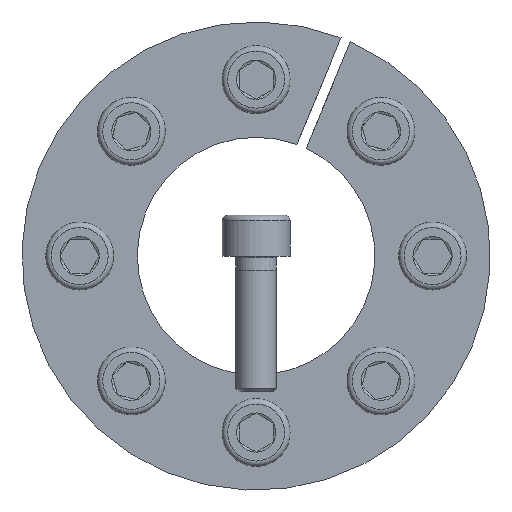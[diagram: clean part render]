
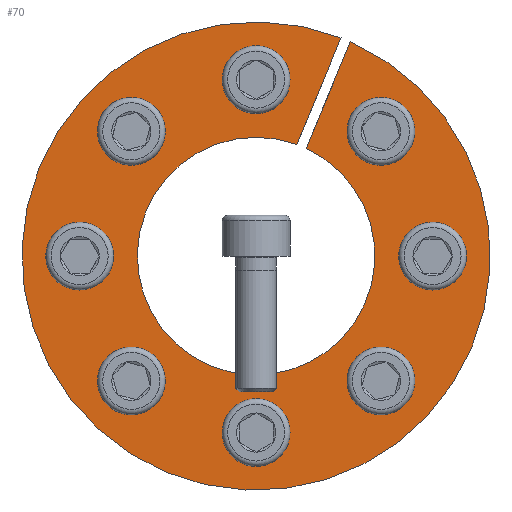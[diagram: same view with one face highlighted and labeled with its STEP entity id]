
A CAD part, front view. The second image highlights one B-rep face of the part: STEP entity #70.
In plain terms, the highlighted planar face has unit normal (0, -1, 0).
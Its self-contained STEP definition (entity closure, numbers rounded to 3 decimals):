
#70 = ADVANCED_FACE( '', ( #157, #158, #159, #160, #161, #162, #163, #164, #165 ), #166, .F. );
#157 = FACE_BOUND( '', #319, .T. );
#158 = FACE_BOUND( '', #320, .T. );
#159 = FACE_BOUND( '', #321, .T. );
#160 = FACE_BOUND( '', #322, .T. );
#161 = FACE_BOUND( '', #323, .T. );
#162 = FACE_BOUND( '', #324, .T. );
#163 = FACE_BOUND( '', #325, .T. );
#164 = FACE_BOUND( '', #326, .T. );
#165 = FACE_OUTER_BOUND( '', #327, .T. );
#166 = PLANE( '', #328 );
#319 = EDGE_LOOP( '', ( #504 ) );
#320 = EDGE_LOOP( '', ( #505 ) );
#321 = EDGE_LOOP( '', ( #506 ) );
#322 = EDGE_LOOP( '', ( #507 ) );
#323 = EDGE_LOOP( '', ( #508 ) );
#324 = EDGE_LOOP( '', ( #509 ) );
#325 = EDGE_LOOP( '', ( #510 ) );
#326 = EDGE_LOOP( '', ( #511 ) );
#327 = EDGE_LOOP( '', ( #512, #513, #514, #515 ) );
#328 = AXIS2_PLACEMENT_3D( '', #516, #517, #518 );
#504 = ORIENTED_EDGE( '', *, *, #801, .T. );
#505 = ORIENTED_EDGE( '', *, *, #802, .T. );
#506 = ORIENTED_EDGE( '', *, *, #803, .T. );
#507 = ORIENTED_EDGE( '', *, *, #804, .T. );
#508 = ORIENTED_EDGE( '', *, *, #805, .T. );
#509 = ORIENTED_EDGE( '', *, *, #806, .T. );
#510 = ORIENTED_EDGE( '', *, *, #807, .T. );
#511 = ORIENTED_EDGE( '', *, *, #808, .T. );
#512 = ORIENTED_EDGE( '', *, *, #809, .T. );
#513 = ORIENTED_EDGE( '', *, *, #810, .T. );
#514 = ORIENTED_EDGE( '', *, *, #811, .T. );
#515 = ORIENTED_EDGE( '', *, *, #812, .F. );
#516 = CARTESIAN_POINT( '', ( 0., 0., 34.5 ) );
#517 = DIRECTION( '', ( 0., 1., 0. ) );
#518 = DIRECTION( '', ( 0., 0., 1. ) );
#801 = EDGE_CURVE( '', #952, #952, #953, .T. );
#802 = EDGE_CURVE( '', #954, #954, #955, .T. );
#803 = EDGE_CURVE( '', #956, #956, #957, .T. );
#804 = EDGE_CURVE( '', #958, #958, #959, .T. );
#805 = EDGE_CURVE( '', #960, #960, #961, .T. );
#806 = EDGE_CURVE( '', #962, #962, #963, .T. );
#807 = EDGE_CURVE( '', #964, #964, #965, .T. );
#808 = EDGE_CURVE( '', #966, #966, #967, .T. );
#809 = EDGE_CURVE( '', #968, #969, #970, .T. );
#810 = EDGE_CURVE( '', #969, #971, #972, .T. );
#811 = EDGE_CURVE( '', #971, #973, #974, .T. );
#812 = EDGE_CURVE( '', #968, #973, #975, .T. );
#952 = VERTEX_POINT( '', #1239 );
#953 = CIRCLE( '', #1240, 3. );
#954 = VERTEX_POINT( '', #1241 );
#955 = CIRCLE( '', #1242, 3. );
#956 = VERTEX_POINT( '', #1243 );
#957 = CIRCLE( '', #1244, 3. );
#958 = VERTEX_POINT( '', #1245 );
#959 = CIRCLE( '', #1246, 3. );
#960 = VERTEX_POINT( '', #1247 );
#961 = CIRCLE( '', #1248, 3. );
#962 = VERTEX_POINT( '', #1249 );
#963 = CIRCLE( '', #1250, 3. );
#964 = VERTEX_POINT( '', #1251 );
#965 = CIRCLE( '', #1252, 3. );
#966 = VERTEX_POINT( '', #1253 );
#967 = CIRCLE( '', #1254, 3. );
#968 = VERTEX_POINT( '', #1255 );
#969 = VERTEX_POINT( '', #1256 );
#970 = LINE( '', #1257, #1258 );
#971 = VERTEX_POINT( '', #1259 );
#972 = CIRCLE( '', #1260, 34.5 );
#973 = VERTEX_POINT( '', #1261 );
#974 = LINE( '', #1262, #1263 );
#975 = CIRCLE( '', #1264, 17.5 );
#1239 = CARTESIAN_POINT( '', ( -16.263, 0., 20.506 ) );
#1240 = AXIS2_PLACEMENT_3D( '', #1443, #1444, #1445 );
#1241 = CARTESIAN_POINT( '', ( -20.506, 0., -16.263 ) );
#1242 = AXIS2_PLACEMENT_3D( '', #1446, #1447, #1448 );
#1243 = CARTESIAN_POINT( '', ( 16.263, 0., -20.506 ) );
#1244 = AXIS2_PLACEMENT_3D( '', #1449, #1450, #1451 );
#1245 = CARTESIAN_POINT( '', ( 20.506, 0., 16.263 ) );
#1246 = AXIS2_PLACEMENT_3D( '', #1452, #1453, #1454 );
#1247 = CARTESIAN_POINT( '', ( 3., 0., 26. ) );
#1248 = AXIS2_PLACEMENT_3D( '', #1455, #1456, #1457 );
#1249 = CARTESIAN_POINT( '', ( 26., 0., -3. ) );
#1250 = AXIS2_PLACEMENT_3D( '', #1458, #1459, #1460 );
#1251 = CARTESIAN_POINT( '', ( -3., 0., -26. ) );
#1252 = AXIS2_PLACEMENT_3D( '', #1461, #1462, #1463 );
#1253 = CARTESIAN_POINT( '', ( -26., 0., 3. ) );
#1254 = AXIS2_PLACEMENT_3D( '', #1464, #1465, #1466 );
#1255 = CARTESIAN_POINT( '', ( 5.998, 0., 16.44 ) );
#1256 = CARTESIAN_POINT( '', ( 12.507, 0., 32.153 ) );
#1257 = CARTESIAN_POINT( '', ( 5.998, 0., 16.44 ) );
#1258 = VECTOR( '', #1467, 1000. );
#1259 = CARTESIAN_POINT( '', ( 13.892, 0., 31.579 ) );
#1260 = AXIS2_PLACEMENT_3D( '', #1468, #1469, #1470 );
#1261 = CARTESIAN_POINT( '', ( 7.384, 0., 15.866 ) );
#1262 = CARTESIAN_POINT( '', ( 13.895, 0., 31.587 ) );
#1263 = VECTOR( '', #1471, 1000. );
#1264 = AXIS2_PLACEMENT_3D( '', #1472, #1473, #1474 );
#1443 = CARTESIAN_POINT( '', ( -18.385, 0., 18.385 ) );
#1444 = DIRECTION( '', ( 0., 1., 0. ) );
#1445 = DIRECTION( '', ( 0.707, 0., 0.707 ) );
#1446 = CARTESIAN_POINT( '', ( -18.385, 0., -18.385 ) );
#1447 = DIRECTION( '', ( 0., 1., 0. ) );
#1448 = DIRECTION( '', ( -0.707, 0., 0.707 ) );
#1449 = CARTESIAN_POINT( '', ( 18.385, 0., -18.385 ) );
#1450 = DIRECTION( '', ( 0., 1., 0. ) );
#1451 = DIRECTION( '', ( -0.707, 0., -0.707 ) );
#1452 = CARTESIAN_POINT( '', ( 18.385, 0., 18.385 ) );
#1453 = DIRECTION( '', ( 0., 1., 0. ) );
#1454 = DIRECTION( '', ( 0.707, 0., -0.707 ) );
#1455 = CARTESIAN_POINT( '', ( 0., 0., 26. ) );
#1456 = DIRECTION( '', ( 0., 1., 0. ) );
#1457 = DIRECTION( '', ( 1., 0., 0. ) );
#1458 = CARTESIAN_POINT( '', ( 26., 0., 0. ) );
#1459 = DIRECTION( '', ( 0., 1., 0. ) );
#1460 = DIRECTION( '', ( 0., 0., -1. ) );
#1461 = CARTESIAN_POINT( '', ( 0., 0., -26. ) );
#1462 = DIRECTION( '', ( 0., 1., 0. ) );
#1463 = DIRECTION( '', ( -1., 0., 0. ) );
#1464 = CARTESIAN_POINT( '', ( -26., 0., 0. ) );
#1465 = DIRECTION( '', ( 0., 1., 0. ) );
#1466 = DIRECTION( '', ( 0., 0., 1. ) );
#1467 = DIRECTION( '', ( 0.383, 0., 0.924 ) );
#1468 = CARTESIAN_POINT( '', ( 0., 0., 0. ) );
#1469 = DIRECTION( '', ( 0., -1., 0. ) );
#1470 = DIRECTION( '', ( 0., 0., -1. ) );
#1471 = DIRECTION( '', ( -0.383, 0., -0.924 ) );
#1472 = CARTESIAN_POINT( '', ( 0., 0., 0. ) );
#1473 = DIRECTION( '', ( 0., -1., 0. ) );
#1474 = DIRECTION( '', ( 0., 0., -1. ) );
